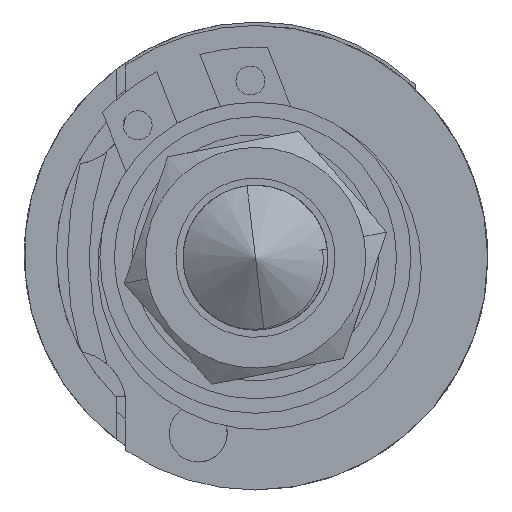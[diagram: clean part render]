
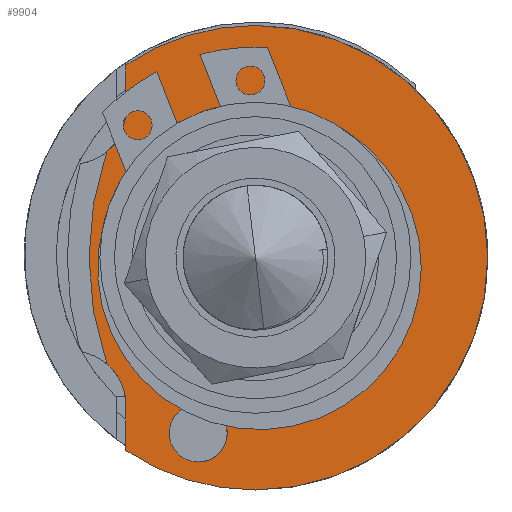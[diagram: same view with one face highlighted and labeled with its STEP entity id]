
A CAD part, front view. The second image highlights one B-rep face of the part: STEP entity #9904.
In plain terms, the highlighted planar face has unit normal (0, -1, 0).
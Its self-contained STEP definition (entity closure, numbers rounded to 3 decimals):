
#100 = CARTESIAN_POINT ( 'NONE',  ( 0., 28.5, 0. ) ) ;
#166 = VERTEX_POINT ( 'NONE', #917 ) ;
#193 = AXIS2_PLACEMENT_3D ( 'NONE', #8575, #6829, #6880 ) ;
#240 = EDGE_CURVE ( 'NONE', #3923, #8021, #9484, .T. ) ;
#331 = CIRCLE ( 'NONE', #7836, 3.7 ) ;
#368 = EDGE_CURVE ( 'NONE', #756, #10730, #5947, .T. ) ;
#455 = ORIENTED_EDGE ( 'NONE', *, *, #10368, .F. ) ;
#547 = AXIS2_PLACEMENT_3D ( 'NONE', #8149, #8981, #10713 ) ;
#608 = CARTESIAN_POINT ( 'NONE',  ( 0., 28.5, 0. ) ) ;
#756 = VERTEX_POINT ( 'NONE', #9232 ) ;
#810 = DIRECTION ( 'NONE',  ( 0., 0., -1. ) ) ;
#917 = CARTESIAN_POINT ( 'NONE',  ( -3.335, 28.5, -10.22 ) ) ;
#940 = ORIENTED_EDGE ( 'NONE', *, *, #2959, .T. ) ;
#980 = DIRECTION ( 'NONE',  ( 0., 0., 1. ) ) ;
#1196 = PLANE ( 'NONE',  #10485 ) ;
#1317 = DIRECTION ( 'NONE',  ( 0., 0., 1. ) ) ;
#1402 = DIRECTION ( 'NONE',  ( 0., 1., 0. ) ) ;
#1689 = CARTESIAN_POINT ( 'NONE',  ( -12.65, 28.5, 10.159 ) ) ;
#1911 = CIRCLE ( 'NONE', #8007, 2. ) ;
#1918 = EDGE_CURVE ( 'NONE', #8021, #166, #7193, .T. ) ;
#2098 = EDGE_CURVE ( 'NONE', #5908, #5534, #9143, .T. ) ;
#2254 = ORIENTED_EDGE ( 'NONE', *, *, #5958, .T. ) ;
#2461 = AXIS2_PLACEMENT_3D ( 'NONE', #8918, #1402, #3101 ) ;
#2499 = AXIS2_PLACEMENT_3D ( 'NONE', #4488, #10224, #6946 ) ;
#2634 = VERTEX_POINT ( 'NONE', #4606 ) ;
#2721 = DIRECTION ( 'NONE',  ( 0., 0., 1. ) ) ;
#2916 = CIRCLE ( 'NONE', #3610, 22.439 ) ;
#2959 = EDGE_CURVE ( 'NONE', #6622, #4597, #2916, .T. ) ;
#3054 = VERTEX_POINT ( 'NONE', #3665 ) ;
#3064 = DIRECTION ( 'NONE',  ( 0., 1., 0. ) ) ;
#3101 = DIRECTION ( 'NONE',  ( 0., 0., -1. ) ) ;
#3119 = DIRECTION ( 'NONE',  ( 0., 0., 1. ) ) ;
#3317 = DIRECTION ( 'NONE',  ( 0., 1., 0. ) ) ;
#3516 = DIRECTION ( 'NONE',  ( 0., 1., 0. ) ) ;
#3610 = AXIS2_PLACEMENT_3D ( 'NONE', #8953, #8124, #6482 ) ;
#3665 = CARTESIAN_POINT ( 'NONE',  ( -8.95, 28.5, -10.159 ) ) ;
#3923 = VERTEX_POINT ( 'NONE', #7159 ) ;
#4047 = ORIENTED_EDGE ( 'NONE', *, *, #2098, .F. ) ;
#4209 = AXIS2_PLACEMENT_3D ( 'NONE', #5181, #3516, #2721 ) ;
#4474 = VERTEX_POINT ( 'NONE', #5128 ) ;
#4478 = DIRECTION ( 'NONE',  ( 0., 1., 0. ) ) ;
#4488 = CARTESIAN_POINT ( 'NONE',  ( 0., 28.5, 0. ) ) ;
#4593 = DIRECTION ( 'NONE',  ( 0., -1., 0. ) ) ;
#4597 = VERTEX_POINT ( 'NONE', #7802 ) ;
#4606 = CARTESIAN_POINT ( 'NONE',  ( -8.95, 28.5, 10.159 ) ) ;
#4618 = CARTESIAN_POINT ( 'NONE',  ( -3.955, 28.5, -12.121 ) ) ;
#4716 = ORIENTED_EDGE ( 'NONE', *, *, #8796, .T. ) ;
#4762 = CIRCLE ( 'NONE', #8965, 2. ) ;
#5025 = DIRECTION ( 'NONE',  ( 0., 0., -1. ) ) ;
#5105 = ORIENTED_EDGE ( 'NONE', *, *, #5249, .T. ) ;
#5128 = CARTESIAN_POINT ( 'NONE',  ( -3.955, 28.5, -10.121 ) ) ;
#5136 = CIRCLE ( 'NONE', #547, 3.7 ) ;
#5181 = CARTESIAN_POINT ( 'NONE',  ( 0., 28.5, 0. ) ) ;
#5249 = EDGE_CURVE ( 'NONE', #4597, #3054, #5136, .T. ) ;
#5481 = DIRECTION ( 'NONE',  ( 0., 1., 0. ) ) ;
#5534 = VERTEX_POINT ( 'NONE', #6251 ) ;
#5649 = CARTESIAN_POINT ( 'NONE',  ( -8.95, 28.5, 0. ) ) ;
#5712 = DIRECTION ( 'NONE',  ( 0., 0., 1. ) ) ;
#5809 = AXIS2_PLACEMENT_3D ( 'NONE', #9057, #3064, #3119 ) ;
#5908 = VERTEX_POINT ( 'NONE', #8482 ) ;
#5923 = EDGE_LOOP ( 'NONE', ( #4716, #940, #5105, #8285, #4047, #455, #9097, #10460 ) ) ;
#5947 = CIRCLE ( 'NONE', #193, 16.05 ) ;
#5958 = EDGE_CURVE ( 'NONE', #8617, #4474, #4762, .T. ) ;
#6091 = CIRCLE ( 'NONE', #4209, 10.75 ) ;
#6251 = CARTESIAN_POINT ( 'NONE',  ( -8.95, 28.5, -13.323 ) ) ;
#6284 = CARTESIAN_POINT ( 'NONE',  ( 0., 28.5, -10.75 ) ) ;
#6380 = FACE_OUTER_BOUND ( 'NONE', #5923, .T. ) ;
#6473 = LINE ( 'NONE', #5649, #9100 ) ;
#6482 = DIRECTION ( 'NONE',  ( 0., 0., -1. ) ) ;
#6622 = VERTEX_POINT ( 'NONE', #8830 ) ;
#6659 = EDGE_CURVE ( 'NONE', #5534, #3054, #10611, .T. ) ;
#6674 = CARTESIAN_POINT ( 'NONE',  ( -3.955, 28.5, -14.121 ) ) ;
#6829 = DIRECTION ( 'NONE',  ( 0., 1., 0. ) ) ;
#6880 = DIRECTION ( 'NONE',  ( 0., 0., 1. ) ) ;
#6946 = DIRECTION ( 'NONE',  ( 0., 0., 1. ) ) ;
#7007 = EDGE_CURVE ( 'NONE', #166, #3923, #6091, .T. ) ;
#7142 = CIRCLE ( 'NONE', #2461, 2. ) ;
#7152 = VECTOR ( 'NONE', #1317, 1000. ) ;
#7159 = CARTESIAN_POINT ( 'NONE',  ( 0., 28.5, 10.75 ) ) ;
#7193 = CIRCLE ( 'NONE', #9119, 10.75 ) ;
#7595 = CARTESIAN_POINT ( 'NONE',  ( -3.955, 28.5, -12.121 ) ) ;
#7764 = AXIS2_PLACEMENT_3D ( 'NONE', #608, #5481, #9715 ) ;
#7802 = CARTESIAN_POINT ( 'NONE',  ( -10.271, 28.5, -7.326 ) ) ;
#7836 = AXIS2_PLACEMENT_3D ( 'NONE', #1689, #8318, #810 ) ;
#7865 = CARTESIAN_POINT ( 'NONE',  ( 0., 28.5, 16.05 ) ) ;
#7921 = DIRECTION ( 'NONE',  ( 0., 0., -1. ) ) ;
#8007 = AXIS2_PLACEMENT_3D ( 'NONE', #4618, #4478, #9674 ) ;
#8021 = VERTEX_POINT ( 'NONE', #6284 ) ;
#8026 = CARTESIAN_POINT ( 'NONE',  ( 16.05, 28.5, 0. ) ) ;
#8115 = EDGE_LOOP ( 'NONE', ( #10247, #8136, #8333, #9701, #2254, #9712 ) ) ;
#8124 = DIRECTION ( 'NONE',  ( 0., -1., 0. ) ) ;
#8136 = ORIENTED_EDGE ( 'NONE', *, *, #240, .T. ) ;
#8149 = CARTESIAN_POINT ( 'NONE',  ( -12.65, 28.5, -10.159 ) ) ;
#8285 = ORIENTED_EDGE ( 'NONE', *, *, #6659, .F. ) ;
#8318 = DIRECTION ( 'NONE',  ( 0., 1., 0. ) ) ;
#8333 = ORIENTED_EDGE ( 'NONE', *, *, #1918, .T. ) ;
#8482 = CARTESIAN_POINT ( 'NONE',  ( 0., 28.5, -16.05 ) ) ;
#8575 = CARTESIAN_POINT ( 'NONE',  ( 0., 28.5, 0. ) ) ;
#8617 = VERTEX_POINT ( 'NONE', #6674 ) ;
#8704 = FACE_BOUND ( 'NONE', #8115, .T. ) ;
#8796 = EDGE_CURVE ( 'NONE', #2634, #6622, #331, .T. ) ;
#8830 = CARTESIAN_POINT ( 'NONE',  ( -10.271, 28.5, 7.326 ) ) ;
#8918 = CARTESIAN_POINT ( 'NONE',  ( -3.955, 28.5, -12.121 ) ) ;
#8927 = EDGE_CURVE ( 'NONE', #2634, #756, #6473, .T. ) ;
#8953 = CARTESIAN_POINT ( 'NONE',  ( 10.939, 28.5, 0. ) ) ;
#8965 = AXIS2_PLACEMENT_3D ( 'NONE', #7595, #3317, #5025 ) ;
#8981 = DIRECTION ( 'NONE',  ( 0., 1., 0. ) ) ;
#9010 = CARTESIAN_POINT ( 'NONE',  ( -8.95, 28.5, 0. ) ) ;
#9057 = CARTESIAN_POINT ( 'NONE',  ( 0., 28.5, 0. ) ) ;
#9097 = ORIENTED_EDGE ( 'NONE', *, *, #368, .F. ) ;
#9100 = VECTOR ( 'NONE', #5712, 1000. ) ;
#9108 = EDGE_CURVE ( 'NONE', #166, #8617, #7142, .T. ) ;
#9119 = AXIS2_PLACEMENT_3D ( 'NONE', #100, #9313, #980 ) ;
#9143 = CIRCLE ( 'NONE', #5809, 16.05 ) ;
#9232 = CARTESIAN_POINT ( 'NONE',  ( -8.95, 28.5, 13.323 ) ) ;
#9237 = EDGE_CURVE ( 'NONE', #4474, #166, #1911, .T. ) ;
#9313 = DIRECTION ( 'NONE',  ( 0., 1., 0. ) ) ;
#9484 = CIRCLE ( 'NONE', #2499, 10.75 ) ;
#9674 = DIRECTION ( 'NONE',  ( 0., 0., -1. ) ) ;
#9701 = ORIENTED_EDGE ( 'NONE', *, *, #9108, .T. ) ;
#9712 = ORIENTED_EDGE ( 'NONE', *, *, #9237, .T. ) ;
#9715 = DIRECTION ( 'NONE',  ( 0., 0., 1. ) ) ;
#9904 = ADVANCED_FACE ( 'NONE', ( #8704, #6380 ), #1196, .T. ) ;
#10224 = DIRECTION ( 'NONE',  ( 0., 1., 0. ) ) ;
#10247 = ORIENTED_EDGE ( 'NONE', *, *, #7007, .T. ) ;
#10368 = EDGE_CURVE ( 'NONE', #10730, #5908, #10791, .T. ) ;
#10460 = ORIENTED_EDGE ( 'NONE', *, *, #8927, .F. ) ;
#10485 = AXIS2_PLACEMENT_3D ( 'NONE', #8026, #4593, #7921 ) ;
#10611 = LINE ( 'NONE', #9010, #7152 ) ;
#10713 = DIRECTION ( 'NONE',  ( 0., 0., -1. ) ) ;
#10730 = VERTEX_POINT ( 'NONE', #7865 ) ;
#10791 = CIRCLE ( 'NONE', #7764, 16.05 ) ;
